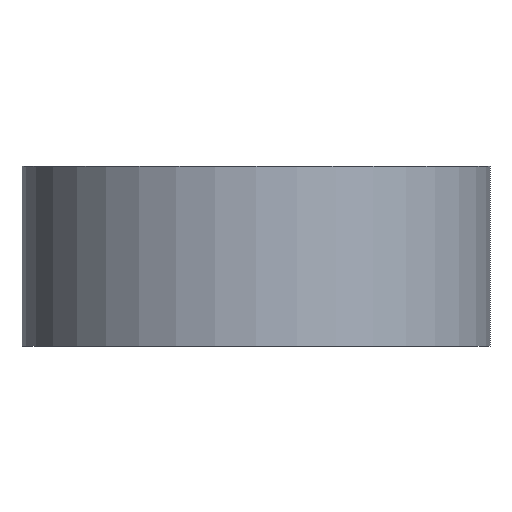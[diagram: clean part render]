
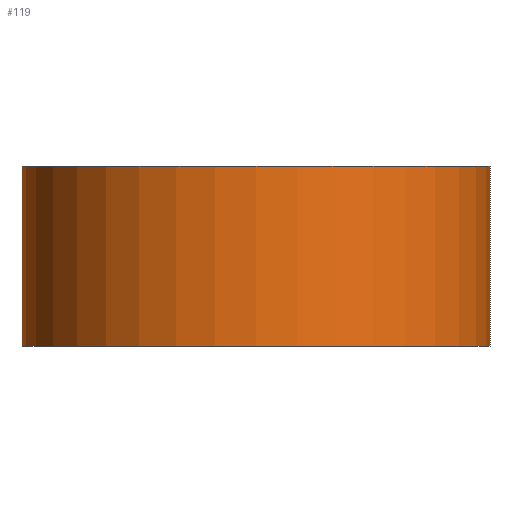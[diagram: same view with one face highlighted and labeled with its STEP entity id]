
A CAD part, front view. The second image highlights one B-rep face of the part: STEP entity #119.
In plain terms, the highlighted cylindrical face has radius 6.5 mm (diameter 13 mm), a partial arc.
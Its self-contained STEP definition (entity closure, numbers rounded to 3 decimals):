
#5 = CYLINDRICAL_SURFACE ( 'NONE', #407, 6.5 ) ;
#29 = DIRECTION ( 'NONE',  ( 0., 0., 1. ) ) ;
#31 = CIRCLE ( 'NONE', #296, 6.5 ) ;
#65 = CARTESIAN_POINT ( 'NONE',  ( -6.5, 0., 5. ) ) ;
#69 = EDGE_CURVE ( 'NONE', #126, #505, #113, .T. ) ;
#93 = CARTESIAN_POINT ( 'NONE',  ( 0., 0., 0. ) ) ;
#102 = DIRECTION ( 'NONE',  ( 1., 0., 0. ) ) ;
#104 = VECTOR ( 'NONE', #263, 1000. ) ;
#113 = LINE ( 'NONE', #319, #249 ) ;
#119 = ADVANCED_FACE ( 'NONE', ( #205 ), #5, .T. ) ;
#126 = VERTEX_POINT ( 'NONE', #65 ) ;
#136 = DIRECTION ( 'NONE',  ( -1., 0., 0. ) ) ;
#144 = VERTEX_POINT ( 'NONE', #145 ) ;
#145 = CARTESIAN_POINT ( 'NONE',  ( 6.5, 0., 0. ) ) ;
#176 = CARTESIAN_POINT ( 'NONE',  ( 0., 0., 5. ) ) ;
#181 = ORIENTED_EDGE ( 'NONE', *, *, #69, .T. ) ;
#184 = ORIENTED_EDGE ( 'NONE', *, *, #185, .F. ) ;
#185 = EDGE_CURVE ( 'NONE', #483, #144, #503, .T. ) ;
#188 = DIRECTION ( 'NONE',  ( 1., 0., 0. ) ) ;
#205 = FACE_OUTER_BOUND ( 'NONE', #470, .T. ) ;
#214 = EDGE_CURVE ( 'NONE', #126, #483, #31, .T. ) ;
#249 = VECTOR ( 'NONE', #485, 1000. ) ;
#263 = DIRECTION ( 'NONE',  ( 0., 0., -1. ) ) ;
#266 = CIRCLE ( 'NONE', #346, 6.5 ) ;
#270 = DIRECTION ( 'NONE',  ( 0., 0., -1. ) ) ;
#274 = EDGE_CURVE ( 'NONE', #505, #144, #266, .T. ) ;
#296 = AXIS2_PLACEMENT_3D ( 'NONE', #176, #428, #102 ) ;
#319 = CARTESIAN_POINT ( 'NONE',  ( -6.5, 0., 5. ) ) ;
#328 = CARTESIAN_POINT ( 'NONE',  ( -6.5, 0., 0. ) ) ;
#346 = AXIS2_PLACEMENT_3D ( 'NONE', #93, #29, #188 ) ;
#370 = CARTESIAN_POINT ( 'NONE',  ( 6.5, 0., 5. ) ) ;
#380 = ORIENTED_EDGE ( 'NONE', *, *, #214, .F. ) ;
#386 = CARTESIAN_POINT ( 'NONE',  ( 6.5, 0., 5. ) ) ;
#407 = AXIS2_PLACEMENT_3D ( 'NONE', #472, #270, #136 ) ;
#428 = DIRECTION ( 'NONE',  ( 0., 0., 1. ) ) ;
#459 = ORIENTED_EDGE ( 'NONE', *, *, #274, .T. ) ;
#470 = EDGE_LOOP ( 'NONE', ( #184, #380, #181, #459 ) ) ;
#472 = CARTESIAN_POINT ( 'NONE',  ( 0., 0., 5. ) ) ;
#483 = VERTEX_POINT ( 'NONE', #370 ) ;
#485 = DIRECTION ( 'NONE',  ( 0., 0., -1. ) ) ;
#503 = LINE ( 'NONE', #386, #104 ) ;
#505 = VERTEX_POINT ( 'NONE', #328 ) ;
